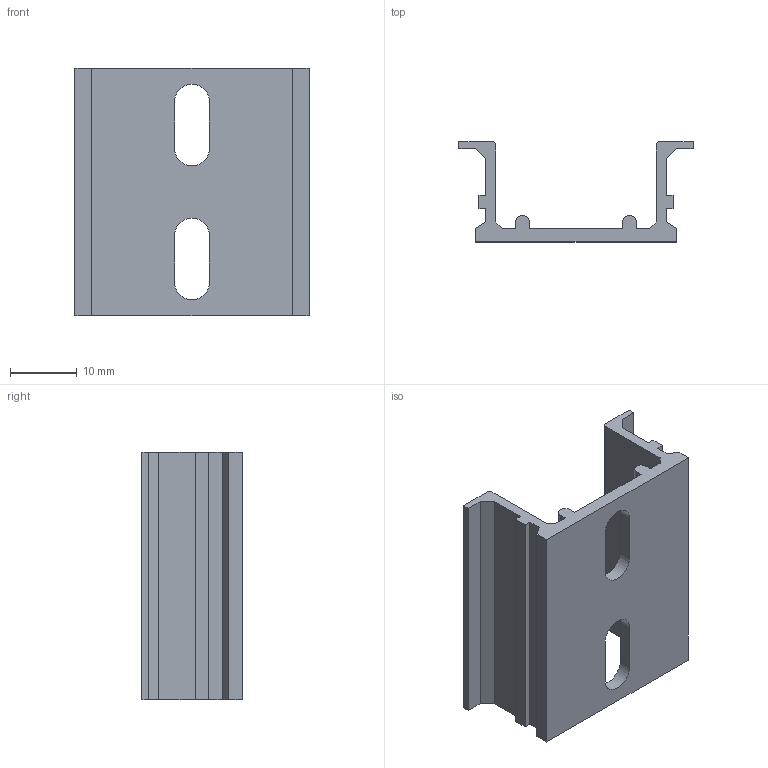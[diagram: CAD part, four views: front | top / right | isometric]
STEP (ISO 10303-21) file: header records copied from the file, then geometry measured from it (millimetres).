
FILE_DESCRIPTION(/* description */ (''),/* implementation_level */ '2;1');
FILE_NAME(/* name */ '22646-(TKB KD-2)HP 3D.stp',/* time_stamp */ '2024-12-05T13:50:25+09:00',/* author */ ('usercadg104'),/* organization */ (''),/* preprocessor_version */ 'ST-DEVELOPER v19.2',/* originating_system */ 'Autodesk Inventor 2023',/* authorisation */ '');
FILE_SCHEMA (('CONFIG_CONTROL_DESIGN'));
Length unit declared in the file: millimetre
Products named in the file (1): 22646-(TKB KD-2)HP 3D
Bounding box: 35 x 15 x 37 mm (x, y, z)
Volume: 4312.5 mm3; surface area: 5225 mm2
Topology: 1 solids, 1 shells, 48 faces, 138 edges, 92 vertices
Faces by surface type: plane 40, cylinder 8
Entity records: 1609 total; most frequent: CARTESIAN_POINT 279, ORIENTED_EDGE 276, DIRECTION 252, EDGE_CURVE 138, LINE 122, VECTOR 122, VERTEX_POINT 92, AXIS2_PLACEMENT_3D 65
